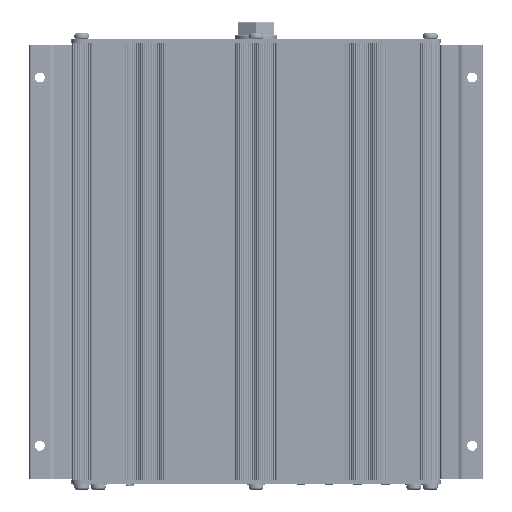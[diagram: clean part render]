
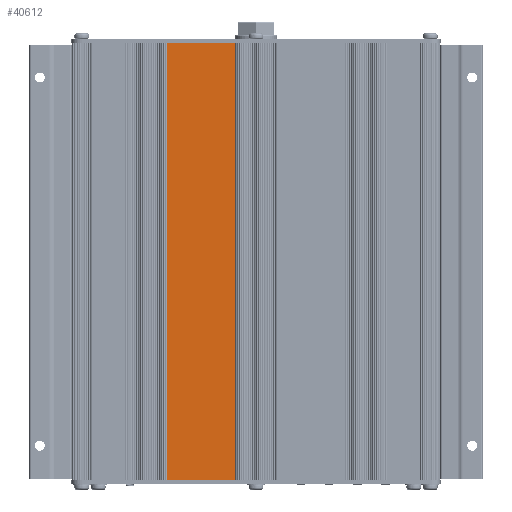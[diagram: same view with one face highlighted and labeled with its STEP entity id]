
A CAD part, front view. The second image highlights one B-rep face of the part: STEP entity #40612.
In plain terms, the highlighted planar face has unit normal (0, -1, 0).
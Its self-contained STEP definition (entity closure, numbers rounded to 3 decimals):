
#5738=DIRECTION('',(1.,0.,0.));
#5739=VECTOR('',#5738,25.75);
#5740=CARTESIAN_POINT('',(-33.725,-20.15,-83.));
#5741=LINE('',#5740,#5739);
#7599=DIRECTION('',(-1.,0.,0.));
#7600=VECTOR('',#7599,25.75);
#7601=CARTESIAN_POINT('',(-7.975,-20.15,83.));
#7602=LINE('',#7601,#7600);
#14379=DIRECTION('',(0.,0.,1.));
#14380=VECTOR('',#14379,166.);
#14381=CARTESIAN_POINT('',(-7.975,-20.15,-83.));
#14382=LINE('',#14381,#14380);
#14387=DIRECTION('',(0.,0.,-1.));
#14388=VECTOR('',#14387,166.);
#14389=CARTESIAN_POINT('',(-33.725,-20.15,83.));
#14390=LINE('',#14389,#14388);
#27525=CARTESIAN_POINT('',(-33.725,-20.15,-83.));
#27526=VERTEX_POINT('',#27525);
#27527=CARTESIAN_POINT('',(-7.975,-20.15,-83.));
#27528=VERTEX_POINT('',#27527);
#28493=CARTESIAN_POINT('',(-7.975,-20.15,83.));
#28494=VERTEX_POINT('',#28493);
#28495=CARTESIAN_POINT('',(-33.725,-20.15,83.));
#28496=VERTEX_POINT('',#28495);
#40600=CARTESIAN_POINT('',(0.,-20.15,-83.));
#40601=DIRECTION('',(0.,1.,0.));
#40602=DIRECTION('',(-1.,0.,0.));
#40603=AXIS2_PLACEMENT_3D('',#40600,#40601,#40602);
#40604=PLANE('',#40603);
#40605=ORIENTED_EDGE('',*,*,#40592,.F.);
#40606=ORIENTED_EDGE('',*,*,#34563,.F.);
#40608=ORIENTED_EDGE('',*,*,#40607,.F.);
#40609=ORIENTED_EDGE('',*,*,#35551,.F.);
#40610=EDGE_LOOP('',(#40605,#40606,#40608,#40609));
#40611=FACE_OUTER_BOUND('',#40610,.F.);
#40612=ADVANCED_FACE('',(#40611),#40604,.F.);
#34563=EDGE_CURVE('',#27526,#27528,#5741,.T.);
#35551=EDGE_CURVE('',#28494,#28496,#7602,.T.);
#40592=EDGE_CURVE('',#27528,#28494,#14382,.T.);
#40607=EDGE_CURVE('',#28496,#27526,#14390,.T.);
